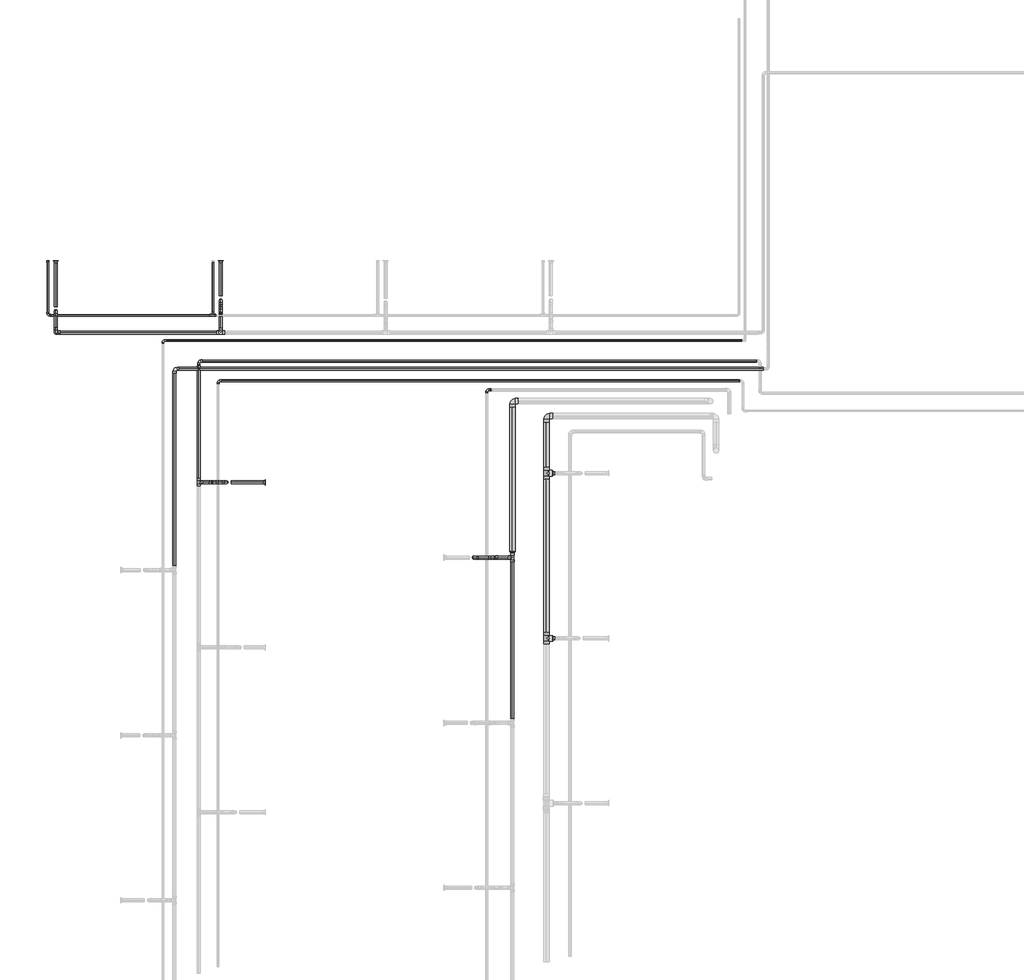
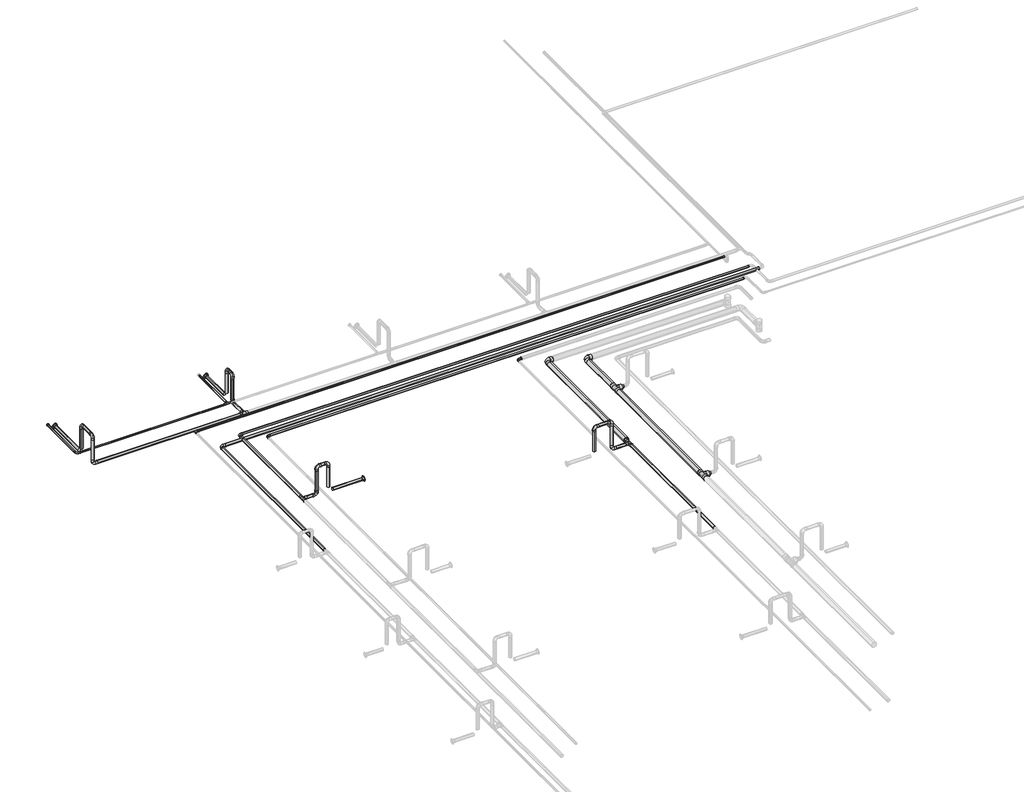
# One storey, part 3 of 22: 35 pipe fittings, 33 pipe segments.
"""IFC4 building model written with IfcOpenShell, lengths in millimetres."""

from ifc_helpers import new_model, si_unit, point, frame, frame_2d, origin, place, context, project, spatial, circle_curve, trimmed, segment, composite_curve, outline, extrude, transform, mapped, element, save
from components import pipe_fitting_3f76be59, pipe_fitting_c294872a, pipe_fitting_e8b5b003, pipe_fitting_fefc82c8, pipe_fitting_16c020f5, pipe_fitting_b10472de, pipe_fitting_0e110a5f, pipe_fitting_3263ca60, pipe_fitting_ae0032d9, pipe_fitting_bf9d9dba, pipe_fitting_48ecef6c, pipe_fitting_13562042

model = new_model("IFC4")

# Units and contexts
model_context = context("Model", 3, world=origin())
ifc_project = project(units=[si_unit("LENGTHUNIT", "METRE", prefix="MILLI")], contexts=[model_context])

# Site, building, storey
site = spatial("IfcSite", under=ifc_project)
building = spatial("IfcBuilding", under=site)
storey = spatial("IfcBuildingStorey", under=building, Name="Nível 2", Elevation=3880.0)

# Pipe fittings
placement = place(None, origin())
pipe_fitting_shape = pipe_fitting_3f76be59(model_context)
element("IfcPipeFitting", 1, ObjectType="Tê - Soldado - CU : Padrão", at=placement, inside=storey, context=model_context, shape_type="MappedRepresentation", body=[
    mapped(pipe_fitting_shape, transform((-8077.8302691, -4807.4373291, 3918.9), x_axis=(0.0, -1.0, 0.0), y_axis=(-1.0, 0.0, 0.0), z_axis=(0.0, 0.0, -1.0))),
])
element("IfcPipeFitting", 2, ObjectType="Tê - Soldado - CU : Padrão", at=placement, inside=storey, context=model_context, shape_type="MappedRepresentation", body=[
    mapped(pipe_fitting_shape, transform((-8077.8302691, -3266.4373291, 3918.9), x_axis=(0.0, -1.0, 0.0), y_axis=(-1.0, 0.0, 0.0), z_axis=(0.0, 0.0, -1.0))),
])
pipe_fitting_2_shape = pipe_fitting_c294872a(model_context)
element("IfcPipeFitting", 3, ObjectType="Cotovelo - Soldado - CU : Padrão", at=placement, inside=storey, context=model_context, shape_type="MappedRepresentation", body=[
    mapped(pipe_fitting_2_shape, transform((-8077.8302691, -2732.6373291, 3918.9), x_axis=(-1.0, 0.0, 0.0), y_axis=(0.0, -1.0, 0.0), z_axis=(0.0, 0.0, 1.0))),
])
element("IfcPipeFitting", 4, ObjectType="Cotovelo - Soldado - CU : Padrão", at=placement, inside=storey, context=model_context, shape_type="MappedRepresentation", body=[
    mapped(pipe_fitting_2_shape, transform((-8395.5926914, -2591.984439, 3918.9), x_axis=(-1.0, 0.0, 0.0), y_axis=(0.0, -1.0, 0.0), z_axis=(0.0, 0.0, 1.0))),
])
pipe_fitting_3_shape = pipe_fitting_e8b5b003(model_context)
element("IfcPipeFitting", 5, ObjectType="Bucha de redução reta - Soldada - CU : Padrão", at=placement, inside=storey, context=model_context, shape_type="MappedRepresentation", body=[
    mapped(pipe_fitting_3_shape, transform((-8395.5926914, -4015.4473557, 3918.9), x_axis=(0.0, 1.0, 0.0), y_axis=(-1.0, 0.0, 0.0), z_axis=(0.0, 0.0, 1.0))),
])
pipe_fitting_4_shape = pipe_fitting_fefc82c8(model_context)
element("IfcPipeFitting", 6, ObjectType="Cotovelo - Soldado - CU : Padrão", at=placement, inside=storey, context=model_context, shape_type="MappedRepresentation", body=[
    mapped(pipe_fitting_4_shape, transform((-8754.9926918, -4053.4473557, 4218.9), x_axis=(0.0, 0.0, 1.0), y_axis=(1.0, 0.0, 0.0), z_axis=(0.0, 1.0, 0.0))),
])
element("IfcPipeFitting", 7, ObjectType="Cotovelo - Soldado - CU : Padrão", at=placement, inside=storey, context=model_context, shape_type="MappedRepresentation", body=[
    mapped(pipe_fitting_4_shape, transform((-8574.9926918, -4053.4473557, 4218.9), x_axis=(1.0, 0.0, 0.0), y_axis=(0.0, 0.0, -1.0), z_axis=(0.0, 1.0, 0.0))),
])
element("IfcPipeFitting", 8, ObjectType="Cotovelo - Soldado - CU : Padrão", at=placement, inside=storey, context=model_context, shape_type="MappedRepresentation", body=[
    mapped(pipe_fitting_4_shape, transform((-8574.9926918, -4053.4473557, 3918.9), x_axis=(0.0, 0.0, -1.0), y_axis=(1.0, 0.0, 0.0), z_axis=(0.0, -1.0, 0.0))),
])
element("IfcPipeFitting", 9, ObjectType="Cotovelo - Soldado - CU : Padrão", at=placement, inside=storey, context=model_context, shape_type="MappedRepresentation", body=[
    mapped(pipe_fitting_4_shape, transform((-11063.5282247, -3351.3118218, 4218.9), x_axis=(0.0, 0.0, 1.0), y_axis=(-1.0, 0.0, 0.0), z_axis=(0.0, -1.0, 0.0))),
])
element("IfcPipeFitting", 10, ObjectType="Cotovelo - Soldado - CU : Padrão", at=placement, inside=storey, context=model_context, shape_type="MappedRepresentation", body=[
    mapped(pipe_fitting_4_shape, transform((-11183.5282247, -3351.3118218, 4218.9), x_axis=(-1.0, 0.0, 0.0), y_axis=(0.0, 0.0, -1.0), z_axis=(0.0, -1.0, 0.0))),
])
element("IfcPipeFitting", 11, ObjectType="Cotovelo - Soldado - CU : Padrão", at=placement, inside=storey, context=model_context, shape_type="MappedRepresentation", body=[
    mapped(pipe_fitting_4_shape, transform((-11183.5282247, -3351.3118218, 3918.9), x_axis=(0.0, 0.0, -1.0), y_axis=(-1.0, 0.0, 0.0), z_axis=(0.0, 1.0, 0.0))),
])
element("IfcPipeFitting", 12, ObjectType="Cotovelo - Soldado - CU : Padrão", at=placement, inside=storey, context=model_context, shape_type="MappedRepresentation", body=[
    mapped(pipe_fitting_4_shape, transform((-12660.0372756, -1752.2521779, 4218.9), x_axis=(0.0, 0.0, 1.0), y_axis=(0.0, -1.0, 0.0), z_axis=(1.0, 0.0, 0.0))),
])
element("IfcPipeFitting", 13, ObjectType="Cotovelo - Soldado - CU : Padrão", at=placement, inside=storey, context=model_context, shape_type="MappedRepresentation", body=[
    mapped(pipe_fitting_4_shape, transform((-12660.0372756, -1952.2521784, 4218.9), x_axis=(0.0, -1.0, 0.0), y_axis=(0.0, 0.0, -1.0), z_axis=(1.0, 0.0, 0.0))),
])
element("IfcPipeFitting", 14, ObjectType="Cotovelo - Soldado - CU : Padrão", at=placement, inside=storey, context=model_context, shape_type="MappedRepresentation", body=[
    mapped(pipe_fitting_4_shape, transform((-12660.0372756, -1952.2521784, 3918.9), x_axis=(0.0, 0.0, -1.0), y_axis=(1.0, 0.0, 0.0), z_axis=(0.0, -1.0, 0.0))),
])
element("IfcPipeFitting", 15, ObjectType="Cotovelo - Soldado - CU : Padrão", at=placement, inside=storey, context=model_context, shape_type="MappedRepresentation", body=[
    mapped(pipe_fitting_4_shape, transform((-11119.0372756, -1652.2521774, 4218.9), x_axis=(0.0, 0.0, 1.0), y_axis=(0.0, -1.0, 0.0), z_axis=(1.0, 0.0, 0.0))),
])
element("IfcPipeFitting", 16, ObjectType="Cotovelo - Soldado - CU : Padrão", at=placement, inside=storey, context=model_context, shape_type="MappedRepresentation", body=[
    mapped(pipe_fitting_4_shape, transform((-11119.0372756, -1752.2521782, 4218.9), x_axis=(0.0, -1.0, 0.0), y_axis=(0.0, 0.0, -1.0), z_axis=(1.0, 0.0, 0.0))),
])
element("IfcPipeFitting", 17, ObjectType="Cotovelo - Soldado - CU : Padrão", at=placement, inside=storey, context=model_context, shape_type="MappedRepresentation", body=[
    mapped(pipe_fitting_4_shape, transform((-11119.0372756, -1752.2521782, 3918.9), x_axis=(0.0, 0.0, -1.0), y_axis=(0.0, -1.0, 0.0), z_axis=(-1.0, 0.0, 0.0))),
])
element("IfcPipeFitting", 18, ObjectType="Cotovelo - Soldado - CU : Padrão", at=placement, inside=storey, context=model_context, shape_type="MappedRepresentation", body=[
    mapped(pipe_fitting_4_shape, transform((-11551.2126646, -2291.9118218, 3918.9), x_axis=(-1.0, 0.0, 0.0), y_axis=(0.0, -1.0, 0.0), z_axis=(0.0, 0.0, 1.0))),
])
pipe_fitting_5_shape = pipe_fitting_16c020f5(model_context)
element("IfcPipeFitting", 19, ObjectType="Cotovelo - Soldado - CU : Padrão", at=placement, inside=storey, context=model_context, shape_type="MappedRepresentation", body=[
    mapped(pipe_fitting_5_shape, transform((-11143.5282239, -2402.3118218, 3954.6), x_axis=(-1.0, 0.0, 0.0), y_axis=(0.0, -1.0, 0.0), z_axis=(0.0, 0.0, 1.0))),
])
element("IfcPipeFitting", 20, ObjectType="Cotovelo - Soldado - CU : Padrão", at=placement, inside=storey, context=model_context, shape_type="MappedRepresentation", body=[
    mapped(pipe_fitting_5_shape, transform((-12733.0372756, -1792.2521765, 3954.5885511), x_axis=(0.0, -0.9999999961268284, -8.801331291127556e-05), y_axis=(1.0000000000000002, 0.0, 0.0), z_axis=(0.0, -8.801331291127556e-05, 0.9999999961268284))),
])
element("IfcPipeFitting", 21, ObjectType="Cotovelo - Soldado - CU : Padrão", at=placement, inside=storey, context=model_context, shape_type="MappedRepresentation", body=[
    mapped(pipe_fitting_5_shape, transform((-11658.5537659, -2026.9118218, 3954.6), x_axis=(-1.0, 0.0, 0.0), y_axis=(0.0, -0.9999999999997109, -7.603841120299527e-07), z_axis=(0.0, -7.603841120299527e-07, 0.9999999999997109))),
])
element("IfcPipeFitting", 22, ObjectType="Cotovelo - Soldado - CU : Padrão", at=placement, inside=storey, context=model_context, shape_type="MappedRepresentation", body=[
    mapped(pipe_fitting_5_shape, transform((-8634.9926925, -2487.8240222, 3954.6), x_axis=(-1.0, 0.0, 0.0), y_axis=(0.0, -1.0, 0.0), z_axis=(0.0, 0.0, 1.0))),
])
pipe_fitting_6_shape = pipe_fitting_b10472de(model_context)
element("IfcPipeFitting", 23, ObjectType="Tê - Soldado - CU : Padrão", at=placement, inside=storey, context=model_context, shape_type="MappedRepresentation", body=[
    mapped(pipe_fitting_6_shape, transform((-11192.0372756, -1792.2521764, 3954.587437), x_axis=(-1.0, 0.0, 0.0), y_axis=(0.0, -0.9999999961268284, -8.801331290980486e-05), z_axis=(0.0, -8.801331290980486e-05, 0.9999999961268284))),
])
pipe_fitting_7_shape = pipe_fitting_0e110a5f(model_context)
element("IfcPipeFitting", 24, ObjectType="Cotovelo - Soldado - CU : Padrão", at=placement, inside=storey, context=model_context, shape_type="MappedRepresentation", body=[
    mapped(pipe_fitting_7_shape, transform((-11323.5282247, -2218.4426922, 3918.9), x_axis=(-1.0, 0.0, 0.0), y_axis=(0.0, -1.0, 0.0), z_axis=(0.0, 0.0, 1.0))),
])
pipe_fitting_8_shape = pipe_fitting_3263ca60(model_context)
element("IfcPipeFitting", 25, ObjectType="Bucha de redução reta - Soldada - CU : Padrão", at=placement, inside=storey, context=model_context, shape_type="MappedRepresentation", body=[
    mapped(pipe_fitting_8_shape, transform((-10703.5282251, -3351.3118218, 3918.8823309), x_axis=(-1.0, 0.0, 0.0), y_axis=(0.0, -1.0, 0.0), z_axis=(0.0, 0.0, 1.0))),
])
element("IfcPipeFitting", 26, ObjectType="Bucha de redução reta - Soldada - CU : Padrão", at=placement, inside=storey, context=model_context, shape_type="MappedRepresentation", body=[
    mapped(pipe_fitting_8_shape, transform((-11119.0372756, -1282.1712342, 3918.8823309), x_axis=(0.0, -1.0, 0.0), y_axis=(1.0, 0.0, 0.0), z_axis=(0.0, 0.0, 1.0))),
])
element("IfcPipeFitting", 27, ObjectType="Bucha de redução reta - Soldada - CU : Padrão", at=placement, inside=storey, context=model_context, shape_type="MappedRepresentation", body=[
    mapped(pipe_fitting_8_shape, transform((-12660.0372756, -1282.1712342, 3918.8823309), x_axis=(0.0, -1.0, 0.0), y_axis=(1.0, 0.0, 0.0), z_axis=(0.0, 0.0, 1.0))),
])
element("IfcPipeFitting", 28, ObjectType="Bucha de redução reta - Soldada - CU : Padrão", at=placement, inside=storey, context=model_context, shape_type="MappedRepresentation", body=[
    mapped(pipe_fitting_8_shape, transform((-8021.9522691, -3266.4373291, 3918.9), x_axis=(1.0, 0.0, 0.0), y_axis=(0.0, 1.0, 0.0), z_axis=(0.0, 0.0, 1.0))),
])
element("IfcPipeFitting", 29, ObjectType="Bucha de redução reta - Soldada - CU : Padrão", at=placement, inside=storey, context=model_context, shape_type="MappedRepresentation", body=[
    mapped(pipe_fitting_8_shape, transform((-8021.9522691, -4807.4373291, 3918.9), x_axis=(1.0, 0.0, 0.0), y_axis=(0.0, 1.0, 0.0), z_axis=(0.0, 0.0, 1.0))),
])
pipe_fitting_9_shape = pipe_fitting_ae0032d9(model_context)
element("IfcPipeFitting", 30, ObjectType="Tê - Soldado - CU : Padrão", at=placement, inside=storey, context=model_context, shape_type="MappedRepresentation", body=[
    mapped(pipe_fitting_9_shape, transform((-8395.5926914, -4053.4473557, 3918.9), x_axis=(0.0, -1.0, 0.0), y_axis=(1.0, 0.0, 0.0), z_axis=(0.0, 0.0, 1.0))),
])
element("IfcPipeFitting", 31, ObjectType="Tê - Soldado - CU : Padrão", at=placement, inside=storey, context=model_context, shape_type="MappedRepresentation", body=[
    mapped(pipe_fitting_9_shape, transform((-11323.5282247, -3351.3118218, 3918.9), x_axis=(0.0, -1.0, 0.0), y_axis=(-1.0, 0.0, 0.0), z_axis=(0.0, 0.0, -1.0))),
])
element("IfcPipeFitting", 32, ObjectType="Tê - Soldado - CU : Padrão", at=placement, inside=storey, context=model_context, shape_type="MappedRepresentation", body=[
    mapped(pipe_fitting_9_shape, transform((-11119.0372756, -1952.2521784, 3918.9), x_axis=(-1.0, 0.0, 0.0), y_axis=(0.0, -1.0, 0.0), z_axis=(0.0, 0.0, 1.0))),
])
pipe_fitting_10_shape = pipe_fitting_bf9d9dba(model_context)
element("IfcPipeFitting", 33, ObjectType="Bucha de redução reta - Soldada - CU : Padrão", at=placement, inside=storey, context=model_context, shape_type="MappedRepresentation", body=[
    mapped(pipe_fitting_10_shape, transform((-12733.0372756, -1282.1712342, 3954.6323309), x_axis=(0.0, -1.0, 0.0), y_axis=(1.0, 0.0, 0.0), z_axis=(0.0, 0.0, 1.0))),
])
pipe_fitting_11_shape = pipe_fitting_48ecef6c(model_context)
element("IfcPipeFitting", 34, ObjectType="Bucha de redução reta - Soldada - CU : Padrão", at=placement, inside=storey, context=model_context, shape_type="MappedRepresentation", body=[
    mapped(pipe_fitting_11_shape, transform((-11323.5282247, -2249.9016922, 3918.9), x_axis=(0.0, -1.0, 0.0), y_axis=(1.0, 0.0, 0.0), z_axis=(0.0, 0.0, 1.0))),
])
pipe_fitting_12_shape = pipe_fitting_13562042(model_context)
element("IfcPipeFitting", 35, ObjectType="Bucha de redução reta - Soldada - CU : Padrão", at=placement, inside=storey, context=model_context, shape_type="MappedRepresentation", body=[
    mapped(pipe_fitting_12_shape, transform((-8606.0140925, -2487.8240222, 3954.6), x_axis=(1.0, 0.0, 0.0), y_axis=(0.0, 1.0, 0.0), z_axis=(0.0, 0.0, 1.0))),
])

# Pipe segments
element("IfcPipeSegment", 36, ObjectType="Tubos de cobre HVAC", at=placement, inside=storey, context=model_context, shape_type="SweptSolid", body=[
    extrude(outline(composite_curve([segment(trimmed(circle_curve(frame_2d((3918.9, -8395.5926914)), 25.4), [point((3918.9, -8370.1926914))], [point((3944.3, -8395.5926914))], False, "CARTESIAN"), True, "CONTINUOUS"), segment(trimmed(circle_curve(frame_2d((3918.9, -8395.5926914)), 25.4), [point((3944.3, -8395.5926914))], [point((3918.9, -8420.9926914))], False, "CARTESIAN"), True, "CONTINUOUS"), segment(trimmed(circle_curve(frame_2d((3918.9, -8395.5926914)), 25.4), [point((3918.9, -8420.9926914))], [point((3893.5, -8395.5926914))], False, "CARTESIAN"), True, "CONTINUOUS"), segment(trimmed(circle_curve(frame_2d((3918.9, -8395.5926914)), 25.4), [point((3893.5, -8395.5926914))], [point((3918.9, -8370.1926914))], False, "CARTESIAN"), True, "CONTINUOUS")], self_intersect=False)), frame((0.0, -3996.0473557, 0.0), z_axis=(0.0, 1.0, 0.0), x_axis=(0.0, 0.0, 1.0)), (0.0, 0.0, 1.0), 1347.8389167),
])
element("IfcPipeSegment", 37, ObjectType="Tubos de cobre HVAC", at=placement, inside=storey, context=model_context, shape_type="SweptSolid", body=[
    extrude(outline(composite_curve([segment(trimmed(circle_curve(frame_2d((-8754.9926918, -4053.4473557)), 14.0), [point((-8740.9926918, -4053.4473557))], [point((-8754.9926918, -4067.4473557))], False, "CARTESIAN"), True, "CONTINUOUS"), segment(trimmed(circle_curve(frame_2d((-8754.9926918, -4053.4473557)), 14.0), [point((-8754.9926918, -4067.4473557))], [point((-8768.9926918, -4053.4473557))], False, "CARTESIAN"), True, "CONTINUOUS"), segment(trimmed(circle_curve(frame_2d((-8754.9926918, -4053.4473557)), 14.0), [point((-8768.9926918, -4053.4473557))], [point((-8754.9926918, -4039.4473557))], False, "CARTESIAN"), True, "CONTINUOUS"), segment(trimmed(circle_curve(frame_2d((-8754.9926918, -4053.4473557)), 14.0), [point((-8754.9926918, -4039.4473557))], [point((-8740.9926918, -4053.4473557))], False, "CARTESIAN"), True, "CONTINUOUS")], self_intersect=False)), frame((0.0, 0.0, 3961.1000001), z_axis=(0.0, 0.0, 1.0), x_axis=(1.0, 0.0, 0.0)), (0.0, 0.0, 1.0), 215.5999999),
])
element("IfcPipeSegment", 38, ObjectType="Tubos de cobre HVAC", at=placement, inside=storey, context=model_context, shape_type="SweptSolid", body=[
    extrude(outline(composite_curve([segment(trimmed(circle_curve(frame_2d((-4053.4473557, 4218.9)), 14.0), [point((-4067.4473557, 4218.9))], [point((-4053.4473557, 4232.9))], False, "CARTESIAN"), True, "CONTINUOUS"), segment(trimmed(circle_curve(frame_2d((-4053.4473557, 4218.9)), 14.0), [point((-4053.4473557, 4232.9))], [point((-4039.4473557, 4218.9))], False, "CARTESIAN"), True, "CONTINUOUS"), segment(trimmed(circle_curve(frame_2d((-4053.4473557, 4218.9)), 14.0), [point((-4039.4473557, 4218.9))], [point((-4053.4473557, 4204.9))], False, "CARTESIAN"), True, "CONTINUOUS"), segment(trimmed(circle_curve(frame_2d((-4053.4473557, 4218.9)), 14.0), [point((-4053.4473557, 4204.9))], [point((-4067.4473557, 4218.9))], False, "CARTESIAN"), True, "CONTINUOUS")], self_intersect=False)), frame((-8712.7926918, 0.0, 0.0), z_axis=(1.0, 0.0, 0.0), x_axis=(0.0, 1.0, 0.0)), (0.0, 0.0, 1.0), 95.6),
])
element("IfcPipeSegment", 39, ObjectType="Tubos de cobre HVAC", at=placement, inside=storey, context=model_context, shape_type="SweptSolid", body=[
    extrude(outline(composite_curve([segment(trimmed(circle_curve(frame_2d((-8574.9926918, -4053.4473557)), 14.0), [point((-8588.9926918, -4053.4473557))], [point((-8574.9926918, -4039.4473557))], False, "CARTESIAN"), True, "CONTINUOUS"), segment(trimmed(circle_curve(frame_2d((-8574.9926918, -4053.4473557)), 14.0), [point((-8574.9926918, -4039.4473557))], [point((-8560.9926918, -4053.4473557))], False, "CARTESIAN"), True, "CONTINUOUS"), segment(trimmed(circle_curve(frame_2d((-8574.9926918, -4053.4473557)), 14.0), [point((-8560.9926918, -4053.4473557))], [point((-8574.9926918, -4067.4473557))], False, "CARTESIAN"), True, "CONTINUOUS"), segment(trimmed(circle_curve(frame_2d((-8574.9926918, -4053.4473557)), 14.0), [point((-8574.9926918, -4067.4473557))], [point((-8588.9926918, -4053.4473557))], False, "CARTESIAN"), True, "CONTINUOUS")], self_intersect=False)), frame((0.0, 0.0, 3961.1), z_axis=(0.0, 0.0, 1.0), x_axis=(1.0, 0.0, 0.0)), (0.0, 0.0, 1.0), 215.6),
])
element("IfcPipeSegment", 40, ObjectType="Tubos de cobre HVAC", at=placement, inside=storey, context=model_context, shape_type="SweptSolid", body=[
    extrude(outline(composite_curve([segment(trimmed(circle_curve(frame_2d((-4053.4473557, 3918.9)), 14.0), [point((-4039.4473557, 3918.9))], [point((-4053.4473557, 3904.9))], False, "CARTESIAN"), True, "CONTINUOUS"), segment(trimmed(circle_curve(frame_2d((-4053.4473557, 3918.9)), 14.0), [point((-4053.4473557, 3904.9))], [point((-4067.4473557, 3918.9))], False, "CARTESIAN"), True, "CONTINUOUS"), segment(trimmed(circle_curve(frame_2d((-4053.4473557, 3918.9)), 14.0), [point((-4067.4473557, 3918.9))], [point((-4053.4473557, 3932.9))], False, "CARTESIAN"), True, "CONTINUOUS"), segment(trimmed(circle_curve(frame_2d((-4053.4473557, 3918.9)), 14.0), [point((-4053.4473557, 3932.9))], [point((-4039.4473557, 3918.9))], False, "CARTESIAN"), True, "CONTINUOUS")], self_intersect=False)), frame((-8532.7926918, 0.0, 0.0), z_axis=(1.0, 0.0, 0.0), x_axis=(0.0, 1.0, 0.0)), (0.0, 0.0, 1.0), 98.7000004),
])
element("IfcPipeSegment", 41, ObjectType="Tubos de cobre HVAC", at=placement, inside=storey, context=model_context, shape_type="SweptSolid", body=[
    extrude(outline(composite_curve([segment(trimmed(circle_curve(frame_2d((3918.9, -8395.5926914)), 14.0), [point((3918.9, -8381.5926914))], [point((3932.9, -8395.5926914))], False, "CARTESIAN"), True, "CONTINUOUS"), segment(trimmed(circle_curve(frame_2d((3918.9, -8395.5926914)), 14.0), [point((3932.9, -8395.5926914))], [point((3918.9, -8409.5926914))], False, "CARTESIAN"), True, "CONTINUOUS"), segment(trimmed(circle_curve(frame_2d((3918.9, -8395.5926914)), 14.0), [point((3918.9, -8409.5926914))], [point((3904.9, -8395.5926914))], False, "CARTESIAN"), True, "CONTINUOUS"), segment(trimmed(circle_curve(frame_2d((3918.9, -8395.5926914)), 14.0), [point((3904.9, -8395.5926914))], [point((3918.9, -8381.5926914))], False, "CARTESIAN"), True, "CONTINUOUS")], self_intersect=False)), frame((0.0, -5559.4473557, 0.0), z_axis=(0.0, 1.0, 0.0), x_axis=(0.0, 0.0, 1.0)), (0.0, 0.0, 1.0), 1468.0),
])
element("IfcPipeSegment", 42, ObjectType="Tubos de cobre HVAC", at=placement, inside=storey, context=model_context, shape_type="SweptSolid", body=[
    extrude(outline(composite_curve([segment(trimmed(circle_curve(frame_2d((3918.9, -8077.8302691)), 25.4), [point((3918.9, -8052.4302691))], [point((3944.3, -8077.8302691))], False, "CARTESIAN"), True, "CONTINUOUS"), segment(trimmed(circle_curve(frame_2d((3918.9, -8077.8302691)), 25.4), [point((3944.3, -8077.8302691))], [point((3918.9, -8103.2302691))], False, "CARTESIAN"), True, "CONTINUOUS"), segment(trimmed(circle_curve(frame_2d((3918.9, -8077.8302691)), 25.4), [point((3918.9, -8103.2302691))], [point((3893.5, -8077.8302691))], False, "CARTESIAN"), True, "CONTINUOUS"), segment(trimmed(circle_curve(frame_2d((3918.9, -8077.8302691)), 25.4), [point((3893.5, -8077.8302691))], [point((3918.9, -8052.4302691))], False, "CARTESIAN"), True, "CONTINUOUS")], self_intersect=False)), frame((0.0, -3210.6833291, 0.0), z_axis=(0.0, 1.0, 0.0), x_axis=(0.0, 0.0, 1.0)), (0.0, 0.0, 1.0), 421.822),
])
element("IfcPipeSegment", 43, ObjectType="Tubos de cobre HVAC", at=placement, inside=storey, context=model_context, shape_type="SweptSolid", body=[
    extrude(outline(composite_curve([segment(trimmed(circle_curve(frame_2d((0.0, 14.0)), 14.0), [point((-14.0, 14.0))], [point((0.0, 28.0))], False, "CARTESIAN"), True, "CONTINUOUS"), segment(trimmed(circle_curve(frame_2d((0.0, 14.0)), 14.0), [point((0.0, 28.0))], [point((14.0, 14.0))], False, "CARTESIAN"), True, "CONTINUOUS"), segment(trimmed(circle_curve(frame_2d((0.0, 14.0)), 14.0), [point((14.0, 14.0))], [point((0.0, 0.0))], False, "CARTESIAN"), True, "CONTINUOUS"), segment(trimmed(circle_curve(frame_2d((0.0, 14.0)), 14.0), [point((0.0, 0.0))], [point((-14.0, 14.0))], False, "CARTESIAN"), True, "CONTINUOUS")], self_intersect=False)), frame((-8002.5522691, -3266.4373291, 3904.9), z_axis=(1.0, 1.829647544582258e-12, 0.0), x_axis=(-1.829647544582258e-12, 1.0, 0.0)), (0.0, 0.0, 1.0), 3.2551758),
])
element("IfcPipeSegment", 44, ObjectType="Tubos de cobre HVAC", at=placement, inside=storey, context=model_context, shape_type="SweptSolid", body=[
    extrude(outline(composite_curve([segment(trimmed(circle_curve(frame_2d((3918.9, -8077.8302691)), 25.4), [point((3918.9, -8052.4302691))], [point((3944.3, -8077.8302691))], False, "CARTESIAN"), True, "CONTINUOUS"), segment(trimmed(circle_curve(frame_2d((3918.9, -8077.8302691)), 25.4), [point((3944.3, -8077.8302691))], [point((3918.9, -8103.2302691))], False, "CARTESIAN"), True, "CONTINUOUS"), segment(trimmed(circle_curve(frame_2d((3918.9, -8077.8302691)), 25.4), [point((3918.9, -8103.2302691))], [point((3893.5, -8077.8302691))], False, "CARTESIAN"), True, "CONTINUOUS"), segment(trimmed(circle_curve(frame_2d((3918.9, -8077.8302691)), 25.4), [point((3893.5, -8077.8302691))], [point((3918.9, -8052.4302691))], False, "CARTESIAN"), True, "CONTINUOUS")], self_intersect=False)), frame((0.0, -4751.6833291, 0.0), z_axis=(0.0, 1.0, 0.0), x_axis=(0.0, 0.0, 1.0)), (0.0, 0.0, 1.0), 1429.492),
])
element("IfcPipeSegment", 45, ObjectType="Tubos de cobre HVAC", at=placement, inside=storey, context=model_context, shape_type="SweptSolid", body=[
    extrude(outline(composite_curve([segment(trimmed(circle_curve(frame_2d((3918.9, -11323.5282247)), 14.0), [point((3918.9, -11309.5282247))], [point((3932.9, -11323.5282247))], False, "CARTESIAN"), True, "CONTINUOUS"), segment(trimmed(circle_curve(frame_2d((3918.9, -11323.5282247)), 14.0), [point((3932.9, -11323.5282247))], [point((3918.9, -11337.5282247))], False, "CARTESIAN"), True, "CONTINUOUS"), segment(trimmed(circle_curve(frame_2d((3918.9, -11323.5282247)), 14.0), [point((3918.9, -11337.5282247))], [point((3904.9, -11323.5282247))], False, "CARTESIAN"), True, "CONTINUOUS"), segment(trimmed(circle_curve(frame_2d((3918.9, -11323.5282247)), 14.0), [point((3904.9, -11323.5282247))], [point((3918.9, -11309.5282247))], False, "CARTESIAN"), True, "CONTINUOUS")], self_intersect=False)), frame((0.0, -3313.3118218, 0.0), z_axis=(0.0, 1.0, 0.0), x_axis=(0.0, 0.0, 1.0)), (0.0, 0.0, 1.0), 1049.2566295),
])
element("IfcPipeSegment", 46, ObjectType="Tubos de cobre HVAC", at=placement, inside=storey, context=model_context, shape_type="SweptSolid", body=[
    extrude(outline(composite_curve([segment(trimmed(circle_curve(frame_2d((-2218.4426922, 3918.9)), 9.525), [point((-2208.9176922, 3918.9))], [point((-2218.4426922, 3909.375))], False, "CARTESIAN"), True, "CONTINUOUS"), segment(trimmed(circle_curve(frame_2d((-2218.4426922, 3918.9)), 9.525), [point((-2218.4426922, 3909.375))], [point((-2227.9676922, 3918.9))], False, "CARTESIAN"), True, "CONTINUOUS"), segment(trimmed(circle_curve(frame_2d((-2218.4426922, 3918.9)), 9.525), [point((-2227.9676922, 3918.9))], [point((-2218.4426922, 3928.425))], False, "CARTESIAN"), True, "CONTINUOUS"), segment(trimmed(circle_curve(frame_2d((-2218.4426922, 3918.9)), 9.525), [point((-2218.4426922, 3928.425))], [point((-2208.9176922, 3918.9))], False, "CARTESIAN"), True, "CONTINUOUS")], self_intersect=False)), frame((-11292.0692247, 0.0, 0.0), z_axis=(1.0, 0.0, 0.0), x_axis=(0.0, 1.0, 0.0)), (0.0, 0.0, 1.0), 5176.7587887),
])
element("IfcPipeSegment", 47, ObjectType="Tubos de cobre HVAC", at=placement, inside=storey, context=model_context, shape_type="SweptSolid", body=[
    extrude(outline(composite_curve([segment(trimmed(circle_curve(frame_2d((0.0, 14.0)), 14.0), [point((-14.0, 14.0))], [point((0.0, 28.0))], False, "CARTESIAN"), True, "CONTINUOUS"), segment(trimmed(circle_curve(frame_2d((0.0, 14.0)), 14.0), [point((0.0, 28.0))], [point((14.0, 14.0))], False, "CARTESIAN"), True, "CONTINUOUS"), segment(trimmed(circle_curve(frame_2d((0.0, 14.0)), 14.0), [point((14.0, 14.0))], [point((0.0, 0.0))], False, "CARTESIAN"), True, "CONTINUOUS"), segment(trimmed(circle_curve(frame_2d((0.0, 14.0)), 14.0), [point((0.0, 0.0))], [point((-14.0, 14.0))], False, "CARTESIAN"), True, "CONTINUOUS")], self_intersect=False)), frame((-10722.9289514, -3351.3118218, 3904.8823309), z_axis=(-0.999999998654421, 0.0, 5.187637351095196e-05), x_axis=(0.0, -1.0, 0.0)), (0.0, 0.0, 1.0), 298.4),
])
element("IfcPipeSegment", 48, ObjectType="Tubos de cobre HVAC", at=placement, inside=storey, context=model_context, shape_type="SweptSolid", body=[
    extrude(outline(composite_curve([segment(trimmed(circle_curve(frame_2d((-11063.5282247, -3351.3118218)), 14.0), [point((-11049.5282247, -3351.3118218))], [point((-11063.5282247, -3365.3118218))], False, "CARTESIAN"), True, "CONTINUOUS"), segment(trimmed(circle_curve(frame_2d((-11063.5282247, -3351.3118218)), 14.0), [point((-11063.5282247, -3365.3118218))], [point((-11077.5282247, -3351.3118218))], False, "CARTESIAN"), True, "CONTINUOUS"), segment(trimmed(circle_curve(frame_2d((-11063.5282247, -3351.3118218)), 14.0), [point((-11077.5282247, -3351.3118218))], [point((-11063.5282247, -3337.3118218))], False, "CARTESIAN"), True, "CONTINUOUS"), segment(trimmed(circle_curve(frame_2d((-11063.5282247, -3351.3118218)), 14.0), [point((-11063.5282247, -3337.3118218))], [point((-11049.5282247, -3351.3118218))], False, "CARTESIAN"), True, "CONTINUOUS")], self_intersect=False)), frame((0.0, 0.0, 3961.1000001), z_axis=(0.0, 0.0, 1.0), x_axis=(1.0, 0.0, 0.0)), (0.0, 0.0, 1.0), 215.5999999),
])
element("IfcPipeSegment", 49, ObjectType="Tubos de cobre HVAC", at=placement, inside=storey, context=model_context, shape_type="SweptSolid", body=[
    extrude(outline(composite_curve([segment(trimmed(circle_curve(frame_2d((-3351.3118218, 4218.9)), 14.0), [point((-3337.3118218, 4218.9))], [point((-3351.3118218, 4204.9))], False, "CARTESIAN"), True, "CONTINUOUS"), segment(trimmed(circle_curve(frame_2d((-3351.3118218, 4218.9)), 14.0), [point((-3351.3118218, 4204.9))], [point((-3365.3118218, 4218.9))], False, "CARTESIAN"), True, "CONTINUOUS"), segment(trimmed(circle_curve(frame_2d((-3351.3118218, 4218.9)), 14.0), [point((-3365.3118218, 4218.9))], [point((-3351.3118218, 4232.9))], False, "CARTESIAN"), True, "CONTINUOUS"), segment(trimmed(circle_curve(frame_2d((-3351.3118218, 4218.9)), 14.0), [point((-3351.3118218, 4232.9))], [point((-3337.3118218, 4218.9))], False, "CARTESIAN"), True, "CONTINUOUS")], self_intersect=False)), frame((-11141.3282247, 0.0, 0.0), z_axis=(1.0, 0.0, 0.0), x_axis=(0.0, 1.0, 0.0)), (0.0, 0.0, 1.0), 35.6),
])
element("IfcPipeSegment", 50, ObjectType="Tubos de cobre HVAC", at=placement, inside=storey, context=model_context, shape_type="SweptSolid", body=[
    extrude(outline(composite_curve([segment(trimmed(circle_curve(frame_2d((-11183.5282247, -3351.3118218)), 14.0), [point((-11197.5282247, -3351.3118218))], [point((-11183.5282247, -3337.3118218))], False, "CARTESIAN"), True, "CONTINUOUS"), segment(trimmed(circle_curve(frame_2d((-11183.5282247, -3351.3118218)), 14.0), [point((-11183.5282247, -3337.3118218))], [point((-11169.5282247, -3351.3118218))], False, "CARTESIAN"), True, "CONTINUOUS"), segment(trimmed(circle_curve(frame_2d((-11183.5282247, -3351.3118218)), 14.0), [point((-11169.5282247, -3351.3118218))], [point((-11183.5282247, -3365.3118218))], False, "CARTESIAN"), True, "CONTINUOUS"), segment(trimmed(circle_curve(frame_2d((-11183.5282247, -3351.3118218)), 14.0), [point((-11183.5282247, -3365.3118218))], [point((-11197.5282247, -3351.3118218))], False, "CARTESIAN"), True, "CONTINUOUS")], self_intersect=False)), frame((0.0, 0.0, 3961.1), z_axis=(0.0, 0.0, 1.0), x_axis=(1.0, 0.0, 0.0)), (0.0, 0.0, 1.0), 215.6),
])
element("IfcPipeSegment", 51, ObjectType="Tubos de cobre HVAC", at=placement, inside=storey, context=model_context, shape_type="SweptSolid", body=[
    extrude(outline(composite_curve([segment(trimmed(circle_curve(frame_2d((-3351.3118218, 3918.9)), 14.0), [point((-3365.3118218, 3918.9))], [point((-3351.3118218, 3932.9))], False, "CARTESIAN"), True, "CONTINUOUS"), segment(trimmed(circle_curve(frame_2d((-3351.3118218, 3918.9)), 14.0), [point((-3351.3118218, 3932.9))], [point((-3337.3118218, 3918.9))], False, "CARTESIAN"), True, "CONTINUOUS"), segment(trimmed(circle_curve(frame_2d((-3351.3118218, 3918.9)), 14.0), [point((-3337.3118218, 3918.9))], [point((-3351.3118218, 3904.9))], False, "CARTESIAN"), True, "CONTINUOUS"), segment(trimmed(circle_curve(frame_2d((-3351.3118218, 3918.9)), 14.0), [point((-3351.3118218, 3904.9))], [point((-3365.3118218, 3918.9))], False, "CARTESIAN"), True, "CONTINUOUS")], self_intersect=False)), frame((-11285.0282247, 0.0, 0.0), z_axis=(1.0, 0.0, 0.0), x_axis=(0.0, 1.0, 0.0)), (0.0, 0.0, 1.0), 59.3),
])
element("IfcPipeSegment", 52, ObjectType="Tubos de cobre HVAC", at=placement, inside=storey, context=model_context, shape_type="SweptSolid", body=[
    extrude(outline(composite_curve([segment(trimmed(circle_curve(frame_2d((-2402.3118218, 3954.6)), 7.935), [point((-2410.2468218, 3954.6))], [point((-2402.3118218, 3962.535))], False, "CARTESIAN"), True, "CONTINUOUS"), segment(trimmed(circle_curve(frame_2d((-2402.3118218, 3954.6)), 7.935), [point((-2402.3118218, 3962.535))], [point((-2394.3768218, 3954.6))], False, "CARTESIAN"), True, "CONTINUOUS"), segment(trimmed(circle_curve(frame_2d((-2402.3118218, 3954.6)), 7.935), [point((-2394.3768218, 3954.6))], [point((-2402.3118218, 3946.665))], False, "CARTESIAN"), True, "CONTINUOUS"), segment(trimmed(circle_curve(frame_2d((-2402.3118218, 3954.6)), 7.935), [point((-2402.3118218, 3946.665))], [point((-2410.2468218, 3954.6))], False, "CARTESIAN"), True, "CONTINUOUS")], self_intersect=False)), frame((-11114.5496239, 0.0, 0.0), z_axis=(1.0, 0.0, 0.0), x_axis=(0.0, 1.0, 0.0)), (0.0, 0.0, 1.0), 4842.0428),
])
element("IfcPipeSegment", 53, ObjectType="Tubos de cobre HVAC", at=placement, inside=storey, context=model_context, shape_type="SweptSolid", body=[
    extrude(outline(composite_curve([segment(trimmed(circle_curve(frame_2d((0.0, 14.0)), 14.0), [point((0.0, 0.0))], [point((-14.0, 14.0))], False, "CARTESIAN"), True, "CONTINUOUS"), segment(trimmed(circle_curve(frame_2d((0.0, 14.0)), 14.0), [point((-14.0, 14.0))], [point((0.0, 28.0))], False, "CARTESIAN"), True, "CONTINUOUS"), segment(trimmed(circle_curve(frame_2d((0.0, 14.0)), 14.0), [point((0.0, 28.0))], [point((14.0, 14.0))], False, "CARTESIAN"), True, "CONTINUOUS"), segment(trimmed(circle_curve(frame_2d((0.0, 14.0)), 14.0), [point((14.0, 14.0))], [point((0.0, 0.0))], False, "CARTESIAN"), True, "CONTINUOUS")], self_intersect=False)), frame((-12674.0372756, -1301.5712342, 3918.8823309), z_axis=(0.0, -0.999999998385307, 5.6827690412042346e-05), x_axis=(0.0, -5.6827690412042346e-05, -0.999999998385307)), (0.0, 0.0, 1.0), 408.4809444),
])
element("IfcPipeSegment", 54, ObjectType="Tubos de cobre HVAC", at=placement, inside=storey, context=model_context, shape_type="SweptSolid", body=[
    extrude(outline(composite_curve([segment(trimmed(circle_curve(frame_2d((-12660.0372756, -1752.2521779)), 14.0), [point((-12646.0372756, -1752.2521779))], [point((-12660.0372756, -1766.2521779))], False, "CARTESIAN"), True, "CONTINUOUS"), segment(trimmed(circle_curve(frame_2d((-12660.0372756, -1752.2521779)), 14.0), [point((-12660.0372756, -1766.2521779))], [point((-12674.0372756, -1752.2521779))], False, "CARTESIAN"), True, "CONTINUOUS"), segment(trimmed(circle_curve(frame_2d((-12660.0372756, -1752.2521779)), 14.0), [point((-12674.0372756, -1752.2521779))], [point((-12660.0372756, -1738.2521779))], False, "CARTESIAN"), True, "CONTINUOUS"), segment(trimmed(circle_curve(frame_2d((-12660.0372756, -1752.2521779)), 14.0), [point((-12660.0372756, -1738.2521779))], [point((-12646.0372756, -1752.2521779))], False, "CARTESIAN"), True, "CONTINUOUS")], self_intersect=False)), frame((0.0, 0.0, 3961.1079421), z_axis=(0.0, 0.0, 1.0), x_axis=(1.0, 0.0, 0.0)), (0.0, 0.0, 1.0), 215.5920579),
])
element("IfcPipeSegment", 55, ObjectType="Tubos de cobre HVAC", at=placement, inside=storey, context=model_context, shape_type="SweptSolid", body=[
    extrude(outline(composite_curve([segment(trimmed(circle_curve(frame_2d((4218.9, -12660.0372756)), 14.0), [point((4218.9, -12674.0372756))], [point((4204.9, -12660.0372756))], False, "CARTESIAN"), True, "CONTINUOUS"), segment(trimmed(circle_curve(frame_2d((4218.9, -12660.0372756)), 14.0), [point((4204.9, -12660.0372756))], [point((4218.9, -12646.0372756))], False, "CARTESIAN"), True, "CONTINUOUS"), segment(trimmed(circle_curve(frame_2d((4218.9, -12660.0372756)), 14.0), [point((4218.9, -12646.0372756))], [point((4232.9, -12660.0372756))], False, "CARTESIAN"), True, "CONTINUOUS"), segment(trimmed(circle_curve(frame_2d((4218.9, -12660.0372756)), 14.0), [point((4232.9, -12660.0372756))], [point((4218.9, -12674.0372756))], False, "CARTESIAN"), True, "CONTINUOUS")], self_intersect=False)), frame((0.0, -1910.0521784, 0.0), z_axis=(0.0, 1.0, 0.0), x_axis=(0.0, 0.0, 1.0)), (0.0, 0.0, 1.0), 115.6000005),
])
element("IfcPipeSegment", 56, ObjectType="Tubos de cobre HVAC", at=placement, inside=storey, context=model_context, shape_type="SweptSolid", body=[
    extrude(outline(composite_curve([segment(trimmed(circle_curve(frame_2d((-12660.0372756, -1952.2521784)), 14.0), [point((-12674.0372756, -1952.2521784))], [point((-12660.0372756, -1938.2521784))], False, "CARTESIAN"), True, "CONTINUOUS"), segment(trimmed(circle_curve(frame_2d((-12660.0372756, -1952.2521784)), 14.0), [point((-12660.0372756, -1938.2521784))], [point((-12646.0372756, -1952.2521784))], False, "CARTESIAN"), True, "CONTINUOUS"), segment(trimmed(circle_curve(frame_2d((-12660.0372756, -1952.2521784)), 14.0), [point((-12646.0372756, -1952.2521784))], [point((-12660.0372756, -1966.2521784))], False, "CARTESIAN"), True, "CONTINUOUS"), segment(trimmed(circle_curve(frame_2d((-12660.0372756, -1952.2521784)), 14.0), [point((-12660.0372756, -1966.2521784))], [point((-12674.0372756, -1952.2521784))], False, "CARTESIAN"), True, "CONTINUOUS")], self_intersect=False)), frame((0.0, 0.0, 3961.1), z_axis=(0.0, 0.0, 1.0), x_axis=(1.0, 0.0, 0.0)), (0.0, 0.0, 1.0), 215.6),
])
element("IfcPipeSegment", 57, ObjectType="Tubos de cobre HVAC", at=placement, inside=storey, context=model_context, shape_type="SweptSolid", body=[
    extrude(outline(composite_curve([segment(trimmed(circle_curve(frame_2d((0.0, 14.0)), 14.0), [point((0.0, 0.0))], [point((-14.0, 14.0))], False, "CARTESIAN"), True, "CONTINUOUS"), segment(trimmed(circle_curve(frame_2d((0.0, 14.0)), 14.0), [point((-14.0, 14.0))], [point((0.0, 28.0))], False, "CARTESIAN"), True, "CONTINUOUS"), segment(trimmed(circle_curve(frame_2d((0.0, 14.0)), 14.0), [point((0.0, 28.0))], [point((13.9999999, 14.0))], False, "CARTESIAN"), True, "CONTINUOUS"), segment(trimmed(circle_curve(frame_2d((0.0, 14.0)), 14.0), [point((13.9999999, 14.0))], [point((0.0, 0.0))], False, "CARTESIAN"), True, "CONTINUOUS")], self_intersect=False)), frame((-11133.0372756, -1301.5712342, 3918.8823309), z_axis=(0.0, -0.9999999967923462, 8.009561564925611e-05), x_axis=(0.0, -8.009561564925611e-05, -0.9999999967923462)), (0.0, 0.0, 1.0), 308.4809442),
])
element("IfcPipeSegment", 58, ObjectType="Tubos de cobre HVAC", at=placement, inside=storey, context=model_context, shape_type="SweptSolid", body=[
    extrude(outline(composite_curve([segment(trimmed(circle_curve(frame_2d((-11119.0372756, -1652.2521774)), 14.0), [point((-11105.0372756, -1652.2521774))], [point((-11119.0372756, -1666.2521774))], False, "CARTESIAN"), True, "CONTINUOUS"), segment(trimmed(circle_curve(frame_2d((-11119.0372756, -1652.2521774)), 14.0), [point((-11119.0372756, -1666.2521774))], [point((-11133.0372756, -1652.2521774))], False, "CARTESIAN"), True, "CONTINUOUS"), segment(trimmed(circle_curve(frame_2d((-11119.0372756, -1652.2521774)), 14.0), [point((-11133.0372756, -1652.2521774))], [point((-11119.0372756, -1638.2521774))], False, "CARTESIAN"), True, "CONTINUOUS"), segment(trimmed(circle_curve(frame_2d((-11119.0372756, -1652.2521774)), 14.0), [point((-11119.0372756, -1638.2521774))], [point((-11105.0372756, -1652.2521774))], False, "CARTESIAN"), True, "CONTINUOUS")], self_intersect=False)), frame((0.0, 0.0, 3961.110419), z_axis=(0.0, 0.0, 1.0), x_axis=(1.0, 0.0, 0.0)), (0.0, 0.0, 1.0), 215.589581),
])
element("IfcPipeSegment", 59, ObjectType="Tubos de cobre HVAC", at=placement, inside=storey, context=model_context, shape_type="SweptSolid", body=[
    extrude(outline(composite_curve([segment(trimmed(circle_curve(frame_2d((4218.9, -11119.0372756)), 14.0), [point((4218.9, -11133.0372756))], [point((4204.9, -11119.0372756))], False, "CARTESIAN"), True, "CONTINUOUS"), segment(trimmed(circle_curve(frame_2d((4218.9, -11119.0372756)), 14.0), [point((4204.9, -11119.0372756))], [point((4218.9, -11105.0372756))], False, "CARTESIAN"), True, "CONTINUOUS"), segment(trimmed(circle_curve(frame_2d((4218.9, -11119.0372756)), 14.0), [point((4218.9, -11105.0372756))], [point((4232.9, -11119.0372756))], False, "CARTESIAN"), True, "CONTINUOUS"), segment(trimmed(circle_curve(frame_2d((4218.9, -11119.0372756)), 14.0), [point((4232.9, -11119.0372756))], [point((4218.9, -11133.0372756))], False, "CARTESIAN"), True, "CONTINUOUS")], self_intersect=False)), frame((0.0, -1710.0521782, 0.0), z_axis=(0.0, 1.0, 0.0), x_axis=(0.0, 0.0, 1.0)), (0.0, 0.0, 1.0), 15.6000008),
])
element("IfcPipeSegment", 60, ObjectType="Tubos de cobre HVAC", at=placement, inside=storey, context=model_context, shape_type="SweptSolid", body=[
    extrude(outline(composite_curve([segment(trimmed(circle_curve(frame_2d((-11119.0372756, -1752.2521782)), 14.0), [point((-11133.0372756, -1752.2521782))], [point((-11119.0372756, -1738.2521782))], False, "CARTESIAN"), True, "CONTINUOUS"), segment(trimmed(circle_curve(frame_2d((-11119.0372756, -1752.2521782)), 14.0), [point((-11119.0372756, -1738.2521782))], [point((-11105.0372756, -1752.2521782))], False, "CARTESIAN"), True, "CONTINUOUS"), segment(trimmed(circle_curve(frame_2d((-11119.0372756, -1752.2521782)), 14.0), [point((-11105.0372756, -1752.2521782))], [point((-11119.0372756, -1766.2521782))], False, "CARTESIAN"), True, "CONTINUOUS"), segment(trimmed(circle_curve(frame_2d((-11119.0372756, -1752.2521782)), 14.0), [point((-11119.0372756, -1766.2521782))], [point((-11133.0372756, -1752.2521782))], False, "CARTESIAN"), True, "CONTINUOUS")], self_intersect=False)), frame((0.0, 0.0, 3961.1), z_axis=(0.0, 0.0, 1.0), x_axis=(1.0, 0.0, 0.0)), (0.0, 0.0, 1.0), 215.6),
])
element("IfcPipeSegment", 61, ObjectType="Tubos de cobre HVAC", at=placement, inside=storey, context=model_context, shape_type="SweptSolid", body=[
    extrude(outline(composite_curve([segment(trimmed(circle_curve(frame_2d((3918.9, -11119.0372756)), 14.0), [point((3918.9, -11105.0372756))], [point((3932.9, -11119.0372756))], False, "CARTESIAN"), True, "CONTINUOUS"), segment(trimmed(circle_curve(frame_2d((3918.9, -11119.0372756)), 14.0), [point((3932.9, -11119.0372756))], [point((3918.9, -11133.0372756))], False, "CARTESIAN"), True, "CONTINUOUS"), segment(trimmed(circle_curve(frame_2d((3918.9, -11119.0372756)), 14.0), [point((3918.9, -11133.0372756))], [point((3904.9, -11119.0372756))], False, "CARTESIAN"), True, "CONTINUOUS"), segment(trimmed(circle_curve(frame_2d((3918.9, -11119.0372756)), 14.0), [point((3904.9, -11119.0372756))], [point((3918.9, -11105.0372756))], False, "CARTESIAN"), True, "CONTINUOUS")], self_intersect=False)), frame((0.0, -1913.7521784, 0.0), z_axis=(0.0, 1.0, 0.0), x_axis=(0.0, 0.0, 1.0)), (0.0, 0.0, 1.0), 119.3000002),
])
element("IfcPipeSegment", 62, ObjectType="Tubos de cobre HVAC", at=placement, inside=storey, context=model_context, shape_type="SweptSolid", body=[
    extrude(outline(composite_curve([segment(trimmed(circle_curve(frame_2d((-1952.2521784, 3918.9)), 14.0), [point((-1966.2521784, 3918.9))], [point((-1952.2521784, 3932.9))], False, "CARTESIAN"), True, "CONTINUOUS"), segment(trimmed(circle_curve(frame_2d((-1952.2521784, 3918.9)), 14.0), [point((-1952.2521784, 3932.9))], [point((-1938.2521784, 3918.9))], False, "CARTESIAN"), True, "CONTINUOUS"), segment(trimmed(circle_curve(frame_2d((-1952.2521784, 3918.9)), 14.0), [point((-1938.2521784, 3918.9))], [point((-1952.2521784, 3904.9))], False, "CARTESIAN"), True, "CONTINUOUS"), segment(trimmed(circle_curve(frame_2d((-1952.2521784, 3918.9)), 14.0), [point((-1952.2521784, 3904.9))], [point((-1966.2521784, 3918.9))], False, "CARTESIAN"), True, "CONTINUOUS")], self_intersect=False)), frame((-12617.8372756, 0.0, 0.0), z_axis=(1.0, 0.0, 0.0), x_axis=(0.0, 1.0, 0.0)), (0.0, 0.0, 1.0), 1460.8),
])
element("IfcPipeSegment", 63, ObjectType="Tubos de cobre HVAC", at=placement, inside=storey, context=model_context, shape_type="SweptSolid", body=[
    extrude(outline(composite_curve([segment(trimmed(circle_curve(frame_2d((0.0, -7.935)), 7.935), [point((0.0, 0.0))], [point((7.9349999, -7.935))], False, "CARTESIAN"), True, "CONTINUOUS"), segment(trimmed(circle_curve(frame_2d((0.0, -7.935)), 7.935), [point((7.9349999, -7.935))], [point((0.0, -15.87))], False, "CARTESIAN"), True, "CONTINUOUS"), segment(trimmed(circle_curve(frame_2d((0.0, -7.935)), 7.935), [point((0.0, -15.87))], [point((-7.935, -7.935))], False, "CARTESIAN"), True, "CONTINUOUS"), segment(trimmed(circle_curve(frame_2d((0.0, -7.935)), 7.935), [point((-7.935, -7.935))], [point((0.0, 0.0))], False, "CARTESIAN"), True, "CONTINUOUS")], self_intersect=False)), frame((-12740.9722756, -1763.2735766, 3954.5911016), z_axis=(0.0, 0.9999999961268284, 8.801331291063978e-05), x_axis=(0.0, 8.801331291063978e-05, -0.9999999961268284)), (0.0, 0.0, 1.0), 468.4434441),
])
element("IfcPipeSegment", 64, ObjectType="Tubos de cobre HVAC", at=placement, inside=storey, context=model_context, shape_type="SweptSolid", body=[
    extrude(outline(composite_curve([segment(trimmed(circle_curve(frame_2d((0.0, 7.935)), 7.935), [point((0.0, 15.87))], [point((7.935, 7.935))], False, "CARTESIAN"), True, "CONTINUOUS"), segment(trimmed(circle_curve(frame_2d((0.0, 7.935)), 7.935), [point((7.935, 7.935))], [point((0.0, 0.0))], False, "CARTESIAN"), True, "CONTINUOUS"), segment(trimmed(circle_curve(frame_2d((0.0, 7.935)), 7.935), [point((0.0, 0.0))], [point((-7.935, 7.935))], False, "CARTESIAN"), True, "CONTINUOUS"), segment(trimmed(circle_curve(frame_2d((0.0, 7.935)), 7.935), [point((-7.935, 7.935))], [point((0.0, 15.87))], False, "CARTESIAN"), True, "CONTINUOUS")], self_intersect=False)), frame((-11199.9722756, -1764.6674765, 3954.5898648), z_axis=(0.0, 0.9999999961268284, 8.80133129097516e-05), x_axis=(0.0, -8.80133129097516e-05, 0.9999999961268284)), (0.0, 0.0, 1.0), 469.8373441),
])
element("IfcPipeSegment", 65, ObjectType="Tubos de cobre HVAC", at=placement, inside=storey, context=model_context, shape_type="SweptSolid", body=[
    extrude(outline(composite_curve([segment(trimmed(circle_curve(frame_2d((0.0, 7.935)), 7.935), [point((-7.935, 7.935))], [point((0.0, 15.87))], False, "CARTESIAN"), True, "CONTINUOUS"), segment(trimmed(circle_curve(frame_2d((0.0, 7.935)), 7.935), [point((0.0, 15.87))], [point((7.935, 7.935))], False, "CARTESIAN"), True, "CONTINUOUS"), segment(trimmed(circle_curve(frame_2d((0.0, 7.935)), 7.935), [point((7.935, 7.935))], [point((0.0, 0.0))], False, "CARTESIAN"), True, "CONTINUOUS"), segment(trimmed(circle_curve(frame_2d((0.0, 7.935)), 7.935), [point((0.0, 0.0))], [point((-7.935, 7.935))], False, "CARTESIAN"), True, "CONTINUOUS")], self_intersect=False)), frame((-12704.0586756, -1792.2521765, 3946.6535511), z_axis=(1.0, 6.606626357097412e-11, 0.0), x_axis=(-6.606626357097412e-11, 1.0, 0.0)), (0.0, 0.0, 1.0), 1484.38605),
])
element("IfcPipeSegment", 66, ObjectType="Tubos de cobre HVAC", at=placement, inside=storey, context=model_context, shape_type="SweptSolid", body=[
    extrude(outline(composite_curve([segment(trimmed(circle_curve(frame_2d((3918.9, -11551.2126646)), 14.0), [point((3918.9, -11537.2126646))], [point((3932.9, -11551.2126646))], False, "CARTESIAN"), True, "CONTINUOUS"), segment(trimmed(circle_curve(frame_2d((3918.9, -11551.2126646)), 14.0), [point((3932.9, -11551.2126646))], [point((3918.9, -11565.2126646))], False, "CARTESIAN"), True, "CONTINUOUS"), segment(trimmed(circle_curve(frame_2d((3918.9, -11551.2126646)), 14.0), [point((3918.9, -11565.2126646))], [point((3904.9, -11551.2126646))], False, "CARTESIAN"), True, "CONTINUOUS"), segment(trimmed(circle_curve(frame_2d((3918.9, -11551.2126646)), 14.0), [point((3904.9, -11551.2126646))], [point((3918.9, -11537.2126646))], False, "CARTESIAN"), True, "CONTINUOUS")], self_intersect=False)), frame((0.0, -4131.9118218, 0.0), z_axis=(0.0, 1.0, 0.0), x_axis=(0.0, 0.0, 1.0)), (0.0, 0.0, 1.0), 1797.8),
])
element("IfcPipeSegment", 67, ObjectType="Tubos de cobre HVAC", at=placement, inside=storey, context=model_context, shape_type="SweptSolid", body=[
    extrude(outline(composite_curve([segment(trimmed(circle_curve(frame_2d((-2291.9118218, 3918.9)), 14.0), [point((-2305.9118218, 3918.9))], [point((-2291.9118218, 3932.9))], False, "CARTESIAN"), True, "CONTINUOUS"), segment(trimmed(circle_curve(frame_2d((-2291.9118218, 3918.9)), 14.0), [point((-2291.9118218, 3932.9))], [point((-2277.9118218, 3918.9))], False, "CARTESIAN"), True, "CONTINUOUS"), segment(trimmed(circle_curve(frame_2d((-2291.9118218, 3918.9)), 14.0), [point((-2277.9118218, 3918.9))], [point((-2291.9118218, 3904.9))], False, "CARTESIAN"), True, "CONTINUOUS"), segment(trimmed(circle_curve(frame_2d((-2291.9118218, 3918.9)), 14.0), [point((-2291.9118218, 3904.9))], [point((-2305.9118218, 3918.9))], False, "CARTESIAN"), True, "CONTINUOUS")], self_intersect=False)), frame((-11509.0126646, 0.0, 0.0), z_axis=(1.0, 0.0, 0.0), x_axis=(0.0, 1.0, 0.0)), (0.0, 0.0, 1.0), 5455.0087495),
])
element("IfcPipeSegment", 68, ObjectType="Tubos de cobre HVAC", at=placement, inside=storey, context=model_context, shape_type="SweptSolid", body=[
    extrude(outline(composite_curve([segment(trimmed(circle_curve(frame_2d((-2026.9118218, 3954.6)), 7.935), [point((-2034.8468218, 3954.6))], [point((-2026.9118218, 3962.535))], False, "CARTESIAN"), True, "CONTINUOUS"), segment(trimmed(circle_curve(frame_2d((-2026.9118218, 3954.6)), 7.935), [point((-2026.9118218, 3962.535))], [point((-2018.9768218, 3954.6))], False, "CARTESIAN"), True, "CONTINUOUS"), segment(trimmed(circle_curve(frame_2d((-2026.9118218, 3954.6)), 7.935), [point((-2018.9768218, 3954.6))], [point((-2026.9118218, 3946.665))], False, "CARTESIAN"), True, "CONTINUOUS"), segment(trimmed(circle_curve(frame_2d((-2026.9118218, 3954.6)), 7.935), [point((-2026.9118218, 3946.665))], [point((-2034.8468218, 3954.6))], False, "CARTESIAN"), True, "CONTINUOUS")], self_intersect=False)), frame((-11629.5751659, 0.0, 0.0), z_axis=(1.0, 0.0, 0.0), x_axis=(0.0, 1.0, 0.0)), (0.0, 0.0, 1.0), 5375.9050964),
])

save(model, "model.ifc")
